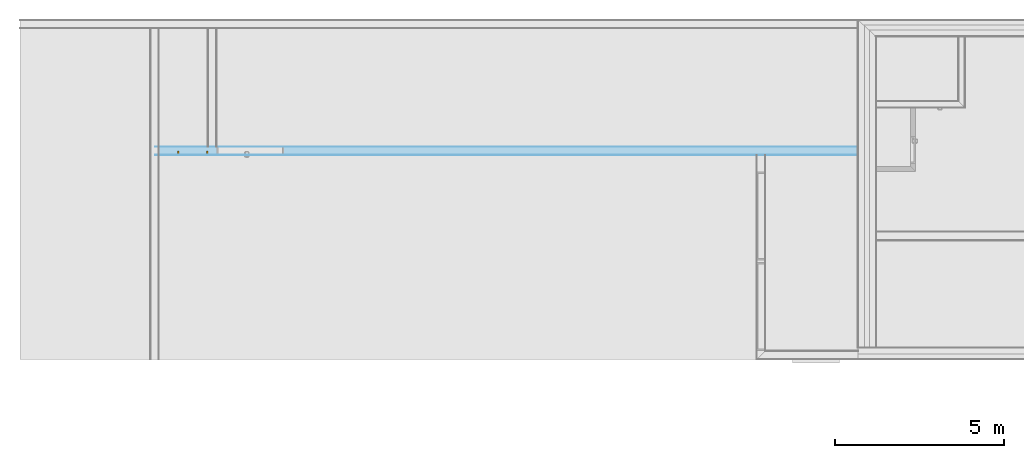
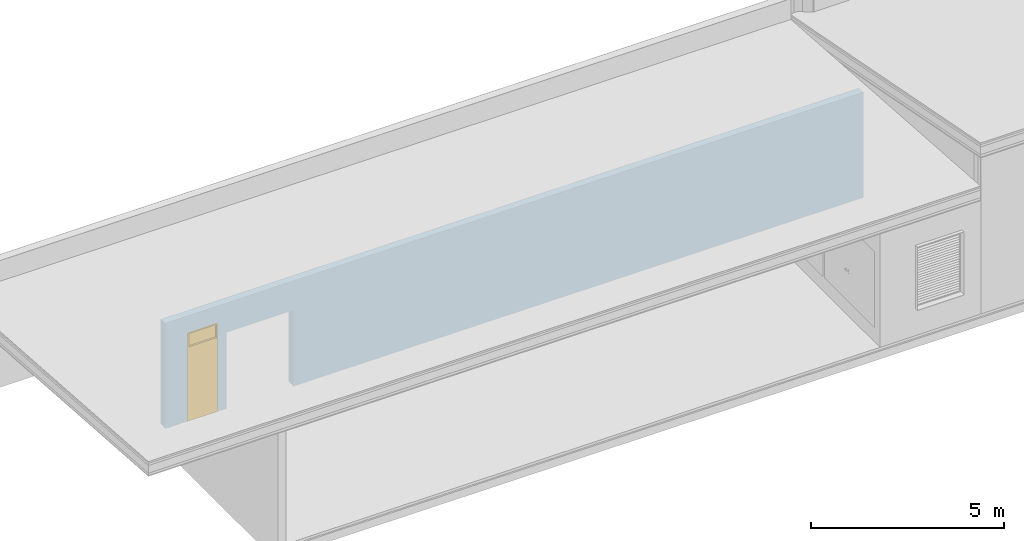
# One storey, part 36 of 62: 1 door, 2 openings, 1 element without a shape of its own, plus 3 elements that do not belong to this part.
"""IFC2X3 building model written with IfcOpenShell, lengths in millimetres."""

from ifc_helpers import new_model, entity, si_unit, converted_unit, derived_unit, money_unit, direction, frame, origin_with_axes, origin_2d_with_axis, place, context, subcontext, project, spatial, polyline, rectangle, outline, extrude, clip, bounded_halfspace, open_shell, faceted_brep, surface_model, material, type_object, element, fill, aggregate, save


model = new_model("IFC2X3")

# Units and contexts
model_context = context("Model", 3, precision=0.01, world=origin_with_axes(), true_north=direction((0.0, 1.0)))
body_context = subcontext(model_context, "Body", "Model", "MODEL_VIEW")
ifc_project = project(units=[si_unit("LENGTHUNIT", "METRE", prefix="MILLI"), si_unit("AREAUNIT", "SQUARE_METRE"), si_unit("VOLUMEUNIT", "CUBIC_METRE"), converted_unit("PLANEANGLEUNIT", "DEGREE", entity("IfcPlaneAngleMeasure", 0.0174532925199), si_unit("PLANEANGLEUNIT", "RADIAN"), dimensions=[0, 0, 0, 0, 0, 0, 0]), si_unit("SOLIDANGLEUNIT", "STERADIAN"), money_unit("EUR"), converted_unit("TIMEUNIT", "Year", entity("IfcTimeMeasure", 31556926.0), si_unit("TIMEUNIT", "SECOND"), dimensions=[0, 0, 1, 0, 0, 0, 0]), si_unit("MASSUNIT", "GRAM", prefix="KILO"), si_unit("THERMODYNAMICTEMPERATUREUNIT", "DEGREE_CELSIUS"), si_unit("LUMINOUSINTENSITYUNIT", "LUMEN"), si_unit("ENERGYUNIT", "JOULE", prefix="MEGA"), derived_unit("THERMALCONDUCTANCEUNIT", [(si_unit("POWERUNIT", "WATT"), 1), (si_unit("LENGTHUNIT", "METRE"), -1), (si_unit("THERMODYNAMICTEMPERATUREUNIT", "KELVIN"), -1)]), derived_unit("SPECIFICHEATCAPACITYUNIT", [(si_unit("ENERGYUNIT", "JOULE"), 1), (si_unit("MASSUNIT", "GRAM", prefix="KILO"), -1), (si_unit("THERMODYNAMICTEMPERATUREUNIT", "KELVIN"), -1)]), derived_unit("MASSDENSITYUNIT", [(si_unit("MASSUNIT", "GRAM", prefix="KILO"), 1), (si_unit("VOLUMEUNIT", "CUBIC_METRE"), -1)])], contexts=[model_context])

# Site, building, storey
site_placement = place(None, origin_with_axes())
site = spatial("IfcSite", under=ifc_project, at=site_placement, Name="KIRDE 14, ELVA", CompositionType="ELEMENT")
building_placement = place(site_placement, origin_with_axes())
building = spatial("IfcBuilding", under=site, at=building_placement, Name="PPA ja Päästeameti ühishoone", CompositionType="ELEMENT")
storey_placement = place(building_placement, origin_with_axes())
storey = spatial("IfcBuildingStorey", under=building, at=storey_placement, Name="Esimene korrus", CompositionType="ELEMENT", Elevation=0.0)

# Door
door_style = type_object("IfcDoorStyle", Name="Door with Transom 24", ConstructionType="NOTDEFINED", OperationType="SINGLE_SWING_RIGHT", ParameterTakesPrecedence=False, Sizeable=False)
proxy_placement = place(storey_placement, frame((-6935.83148904, 45593.5478741, 0.0), z_axis=(0.0, 0.0, 1.0), x_axis=(1.0, 0.0, 0.0)))
opening_2_placement = place(proxy_placement, frame((1112.73408948, 0.0, 0.0), z_axis=(0.0, 0.0, 1.0), x_axis=(1.0, 0.0, 0.0)))
door_placement = place(opening_2_placement, frame((450.0, 0.0, 0.0), z_axis=(0.0, 0.0, 1.0), x_axis=(-1.0, 0.0, 0.0)))
door = element("IfcDoor", 1, at=door_placement, inside=storey, type_object=door_style, Name="VU-03", ObjectType="DOOR", OverallHeight=2800.0, OverallWidth=900.0, context=body_context, shape_type="SurfaceModel", body=[
    faceted_brep([(40.0, -40.0, 2312.0), (40.0, 0.0, 2312.0), (40.0, 0.0, 2340.0), (40.0, -115.0, 2340.0), (40.0, -115.0, 2300.0), (40.0, -115.0, 0.0), (40.0, -40.0, 0.0), (28.0, -40.0, 2312.0), (28.0, 0.0, 2312.0), (28.0, 0.0, 0.0), (0.0, 0.0, 0.0), (0.0, 0.0, 2760.0), (40.0, 0.0, 2760.0), (40.0, -115.0, 2760.0), (0.0, -115.0, 2760.0), (0.0, -115.0, 0.0), (28.0, -40.0, 0.0)], [[[0, 1, 2, 3, 4, 5, 6]], [[1, 0, 7, 8]], [[8, 9, 10, 11, 12, 2, 1]], [[12, 13, 3, 2]], [[3, 13, 14, 15, 5, 4]], [[16, 6, 5, 15, 10, 9]], [[0, 6, 16, 7]], [[9, 8, 7, 16]], [[10, 15, 14, 11]], [[11, 14, 13, 12]]]),
    faceted_brep([(872.0, 0.0, 2312.0), (860.0, 0.0, 2312.0), (860.0, 0.0, 2340.0), (860.0, 0.0, 2760.0), (900.0, 0.0, 2760.0), (900.0, 0.0, 0.0), (872.0, 0.0, 0.0), (872.0, -40.0, 2312.0), (860.0, -40.0, 2312.0), (860.0, -40.0, 0.0), (860.0, -115.0, 0.0), (860.0, -115.0, 2300.0), (860.0, -115.0, 2340.0), (860.0, -115.0, 2760.0), (900.0, -115.0, 2760.0), (900.0, -115.0, 0.0), (872.0, -40.0, 0.0)], [[[0, 1, 2, 3, 4, 5, 6]], [[1, 0, 7, 8]], [[8, 9, 10, 11, 12, 2, 1]], [[2, 12, 13, 3]], [[3, 13, 14, 4]], [[4, 14, 15, 5]], [[16, 6, 5, 15, 10, 9]], [[0, 6, 16, 7]], [[16, 9, 8, 7]], [[12, 11, 10, 15, 14, 13]]]),
    faceted_brep([(0.0, 0.0, 2800.0), (0.0, 0.0, 2760.0), (0.0, -115.0, 2760.0), (0.0, -115.0, 2800.0), (900.0, 0.0, 2800.0), (900.0, 0.0, 2760.0), (860.0, 0.0, 2760.0), (40.0, 0.0, 2760.0), (40.0, -115.0, 2760.0), (860.0, -115.0, 2760.0), (900.0, -115.0, 2760.0), (900.0, -115.0, 2800.0)], [[[0, 1, 2, 3]], [[0, 4, 5, 6, 7, 1]], [[1, 7, 8, 2]], [[3, 2, 8, 9, 10, 11]], [[4, 0, 3, 11]], [[5, 4, 11, 10]], [[6, 5, 10, 9]], [[7, 6, 9, 8]]]),
    faceted_brep([(860.0, -40.0, 2312.0), (860.0, 0.0, 2312.0), (860.0, 0.0, 2340.0), (860.0, -115.0, 2340.0), (860.0, -115.0, 2300.0), (860.0, -40.0, 2300.0), (40.0, -40.0, 2312.0), (40.0, 0.0, 2312.0), (40.0, 0.0, 2340.0), (40.0, -115.0, 2340.0), (40.0, -115.0, 2300.0), (40.0, -40.0, 2300.0)], [[[0, 1, 2, 3, 4, 5]], [[1, 0, 6, 7]], [[1, 7, 8, 2]], [[8, 9, 3, 2]], [[10, 4, 3, 9]], [[11, 5, 4, 10]], [[0, 5, 11, 6]], [[6, 11, 10, 9, 8, 7]]]),
    faceted_brep([(872.0, 0.0, 0.0), (872.0, -40.0, 0.0), (28.0, -40.0, 0.0), (28.0, 0.0, 0.0), (872.0, 0.0, 2312.0), (872.0, -40.0, 2312.0), (28.0, -40.0, 2312.0), (28.0, 0.0, 2312.0)], [[[0, 1, 2, 3]], [[4, 5, 1, 0]], [[1, 5, 6, 2]], [[3, 2, 6, 7]], [[0, 3, 7, 4]], [[7, 6, 5, 4]]]),
    surface_model("IfcShellBasedSurfaceModel", [(40.0, -51.5, 2340.0), (40.0, -51.5, 2760.0), (860.0, -51.5, 2760.0), (860.0, -51.5, 2340.0)], [open_shell([[[0, 1, 2, 3]]])]),
    surface_model("IfcShellBasedSurfaceModel", [(40.0, -63.5, 2340.0), (860.0, -63.5, 2340.0), (860.0, -63.5, 2760.0), (40.0, -63.5, 2760.0)], [open_shell([[[0, 1, 2, 3]]])]),
])

# Proxy, openings
building_element_proxy_type = type_object("IfcBuildingElementProxyType", Name="A-VS02 250", PredefinedType="NOTDEFINED")
proxy = element("IfcBuildingElementProxy", 2, at=proxy_placement, inside=storey, type_object=building_element_proxy_type, Name="VS-06")
opening_1_placement = place(proxy_placement, frame((2822.73408948, 0.0, 0.0), z_axis=(0.0, 0.0, 1.0), x_axis=(1.0, 0.0, 0.0)))
element("IfcOpeningElement", 3, at=opening_1_placement, cuts=proxy, Name="VUA-02", context=body_context, shape_type="SweptSolid", body=[
    extrude(rectangle(XDim=2000.0, YDim=2400.0, at=origin_2d_with_axis()), frame((0.0, -250.0, 1200.0), z_axis=(0.0, -1.0, 0.0), x_axis=(1.0, 0.0, 0.0)), (0.0, 0.0, -1.0), 750.0),
])
opening_2 = element("IfcOpeningElement", 4, at=opening_2_placement, cuts=proxy, Name="VU-03", context=body_context, shape_type="SweptSolid", body=[
    extrude(rectangle(XDim=900.0, YDim=2800.0, at=origin_2d_with_axis()), frame((0.0, 250.0, 1400.0), z_axis=(0.0, -1.0, 0.0), x_axis=(-1.0, 0.0, 0.0)), (0.0, 0.0, 1.0), 750.0),
])

fill(opening_2, door)

# Building element part
ifc_material_1 = material(Name="Krohv")
building_element_part_1_placement = place(proxy_placement, origin_with_axes())
building_element_part_1 = element("IfcBuildingElementPart", 5, at=building_element_part_1_placement, material=ifc_material_1, Name="Krohv", context=body_context, shape_type="Clipping", body=[
    clip(clip(clip(extrude(outline(polyline([(0.0, 0.0), (20839.8046213, 0.0), (20839.8046213, 5.0), (0.0, 5.0), (0.0, 0.0)])), origin_with_axes(), (0.0, 0.0, 1.0), 3322.35109752), bounded_halfspace(frame((0.0, 233.123173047, 3305.91193797), z_axis=(0.0, -0.0703423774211, -0.997522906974), x_axis=(0.0, 0.997522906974, -0.0703423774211)), True, origin_with_axes(), polyline([(-286.01, -10.0), (17929.2621143, -10.0), (17929.2621143, 260.0), (-286.01, 260.0), (-286.01, -10.0)]))), bounded_halfspace(frame((0.0, 233.123173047, 3305.91193797), z_axis=(0.0, -0.0703423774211, -0.997522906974), x_axis=(0.0, 0.997522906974, -0.0703423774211)), True, origin_with_axes(), polyline([(-286.01, -10.0), (21374.8046144, -10.0), (21374.8046144, 260.0), (-286.01, 260.0), (-286.01, -10.0)]))), bounded_halfspace(frame((0.0, 737.288684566, 3741.47372863), z_axis=(0.0, -0.193340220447, -0.981131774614), x_axis=(0.0, 0.981131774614, -0.193340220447)), True, origin_with_axes(), polyline([(17929.2621143, -10.0), (38613.4632631, -10.0), (38613.4632631, 260.0), (17929.2621143, 260.0), (17929.2621143, -10.0)]))),
])

ifc_material_2 = material(Name="COLUMBIA KIVI (BETONEERITUD)")
building_element_part_2_placement = place(proxy_placement, origin_with_axes())
building_element_part_2 = element("IfcBuildingElementPart", 6, at=building_element_part_2_placement, material=ifc_material_2, Name="COLUMBIA KIVI (BETONEERITUD)", context=body_context, shape_type="Clipping", body=[
    clip(clip(clip(extrude(outline(polyline([(0.0, 5.0), (20839.8046213, 5.0), (20839.8046213, 245.0), (0.0, 245.0), (0.0, 5.0)])), origin_with_axes(), (0.0, 0.0, 1.0), 3322.35109752), bounded_halfspace(frame((0.0, 233.123173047, 3305.91193797), z_axis=(0.0, -0.0703423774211, -0.997522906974), x_axis=(0.0, 0.997522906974, -0.0703423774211)), True, origin_with_axes(), polyline([(-286.01, -10.0), (17929.2621143, -10.0), (17929.2621143, 260.0), (-286.01, 260.0), (-286.01, -10.0)]))), bounded_halfspace(frame((0.0, 233.123173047, 3305.91193797), z_axis=(0.0, -0.0703423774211, -0.997522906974), x_axis=(0.0, 0.997522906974, -0.0703423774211)), True, origin_with_axes(), polyline([(-286.01, -10.0), (21374.8046144, -10.0), (21374.8046144, 260.0), (-286.01, 260.0), (-286.01, -10.0)]))), bounded_halfspace(frame((0.0, 737.288684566, 3741.47372863), z_axis=(0.0, -0.193340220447, -0.981131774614), x_axis=(0.0, 0.981131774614, -0.193340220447)), True, origin_with_axes(), polyline([(17929.2621143, -10.0), (38613.4632631, -10.0), (38613.4632631, 260.0), (17929.2621143, 260.0), (17929.2621143, -10.0)]))),
])

building_element_part_3_placement = place(proxy_placement, origin_with_axes())
building_element_part_3 = element("IfcBuildingElementPart", 7, at=building_element_part_3_placement, material=ifc_material_1, Name="Krohv", context=body_context, shape_type="Clipping", body=[
    clip(clip(clip(extrude(outline(polyline([(0.0, 245.0), (20839.8046213, 245.0), (20839.8046213, 250.0), (0.0, 250.0), (0.0, 245.0)])), origin_with_axes(), (0.0, 0.0, 1.0), 3322.35109752), bounded_halfspace(frame((0.0, 233.123173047, 3305.91193797), z_axis=(0.0, -0.0703423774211, -0.997522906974), x_axis=(0.0, 0.997522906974, -0.0703423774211)), True, origin_with_axes(), polyline([(-286.01, -10.0), (17929.2621143, -10.0), (17929.2621143, 260.0), (-286.01, 260.0), (-286.01, -10.0)]))), bounded_halfspace(frame((0.0, 233.123173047, 3305.91193797), z_axis=(0.0, -0.0703423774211, -0.997522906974), x_axis=(0.0, 0.997522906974, -0.0703423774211)), True, origin_with_axes(), polyline([(-286.01, -10.0), (21374.8046144, -10.0), (21374.8046144, 260.0), (-286.01, 260.0), (-286.01, -10.0)]))), bounded_halfspace(frame((0.0, 737.288684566, 3741.47372863), z_axis=(0.0, -0.193340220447, -0.981131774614), x_axis=(0.0, 0.981131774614, -0.193340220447)), True, origin_with_axes(), polyline([(17929.2621143, -10.0), (38613.4632631, -10.0), (38613.4632631, 260.0), (17929.2621143, 260.0), (17929.2621143, -10.0)]))),
])

aggregate(proxy, [building_element_part_1, building_element_part_2, building_element_part_3])

save(model, "model.ifc")
